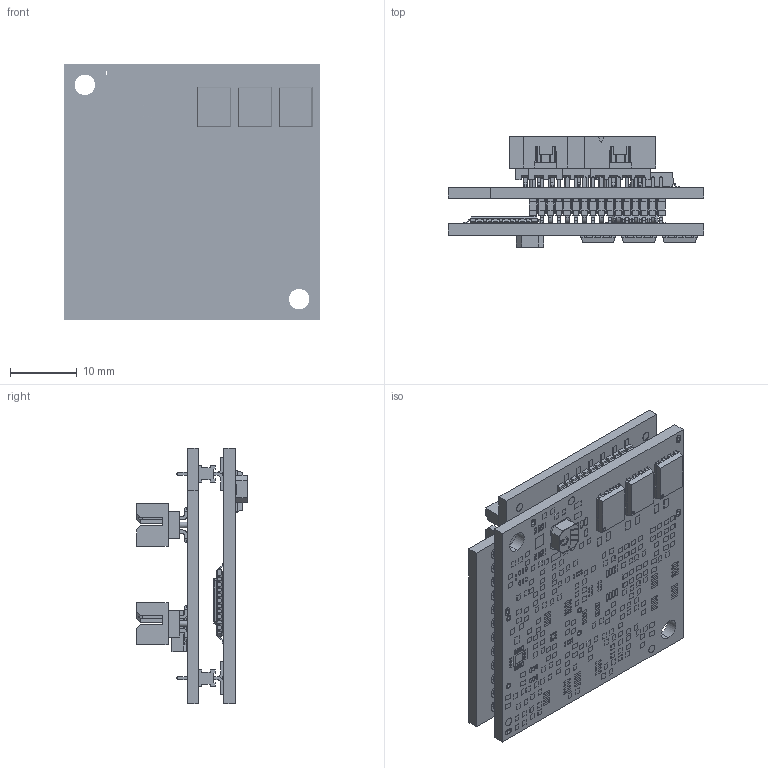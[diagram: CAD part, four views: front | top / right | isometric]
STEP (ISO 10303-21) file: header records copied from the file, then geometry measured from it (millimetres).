
FILE_DESCRIPTION((''),'2;1');
FILE_NAME('AMC_CAD_AXZ_10A4IC_ASM','2019-05-22T',('SYSTEM'),(''),'PRO/ENGINEER BY PARAMETRIC TECHNOLOGY CORPORATION, 2016360','PRO/ENGINEER BY PARAMETRIC TECHNOLOGY CORPORATION, 2016360','');
FILE_SCHEMA(('AUTOMOTIVE_DESIGN { 1 0 10303 214 1 1 1 1 }'));
Length unit declared in the file: inch
Products named in the file (16): DRIVE-2-SOLID2; P7-2-SOLID1; SW1-2-SOLID1; P8-2-SOLID1; P3-2-SOLID1; DRIVE-2-SOLID8; PCB-2-SOLID1; DRIVE-2-SOLID7; DRIVE-2-SOLID5; DRIVE-2-SOLID9; DRIVE-2-SOLID3; DRIVE-2-SOLID6; DRIVE-2-SOLID4; DRIVE-2-SOLID1; ASM0001_ASM; AMC_CAD_AXZ_10A4IC_ASM
Assembly tree (15 placements, depth 3):
  AMC_CAD_AXZ_10A4IC_ASM
    ASM0001_ASM
      DRIVE-2-SOLID2
      P7-2-SOLID1
      SW1-2-SOLID1
      P8-2-SOLID1
      P3-2-SOLID1
      DRIVE-2-SOLID8
      PCB-2-SOLID1
      DRIVE-2-SOLID7
      DRIVE-2-SOLID5
      DRIVE-2-SOLID9
      DRIVE-2-SOLID3
      DRIVE-2-SOLID6
      DRIVE-2-SOLID4
      DRIVE-2-SOLID1
Bounding box: 38.1 x 16.56 x 38.1 mm (x, y, z)
Volume: 5726.8 mm3; surface area: 9708.4 mm2
Topology: 14 solids, 14 shells, 8369 faces, 21269 edges, 13975 vertices
Faces by surface type: plane 6849, cylinder 1501, extrusion 9, cone 8, torus 2
Entity records: 338412 total; most frequent: CARTESIAN_POINT 44311, ORIENTED_EDGE 42538, DIRECTION 41170, PRESENTATION_STYLE_ASSIGNMENT 24648, STYLED_ITEM 21292, CURVE_STYLE 21278, EDGE_CURVE 21269, VECTOR 17986
